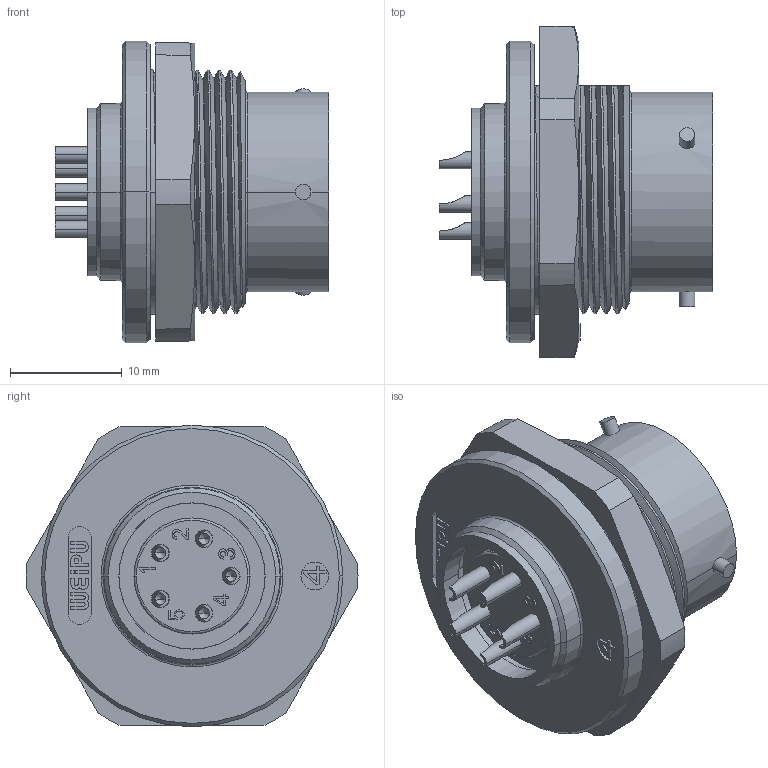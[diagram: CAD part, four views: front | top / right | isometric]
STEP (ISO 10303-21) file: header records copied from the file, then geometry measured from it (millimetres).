
FILE_DESCRIPTION((''),'2;1');
FILE_NAME('WY16J5ZMQ','2020-04-29T',('Administrator'),(''),'CREO PARAMETRIC BY PTC INC, 2016130','CREO PARAMETRIC BY PTC INC, 2016130','');
FILE_SCHEMA(('CONFIG_CONTROL_DESIGN'));
Length unit declared in the file: millimetre
Products named in the file (1): WY16J5ZMQ
Bounding box: 24.5 x 29.72 x 27 mm (x, y, z)
Volume: 5939.8 mm3; surface area: 4869.9 mm2
Topology: 1 solids, 1 shells, 448 faces, 1275 edges, 849 vertices
Faces by surface type: plane 202, cylinder 89, cone 65, extrusion 42, bspline 28, torus 12, sphere 10
Entity records: 19124 total; most frequent: CARTESIAN_POINT 7860, ORIENTED_EDGE 2510, DIRECTION 2054, EDGE_CURVE 1255, VERTEX_POINT 849, AXIS2_PLACEMENT_3D 689, VECTOR 676, LINE 634
